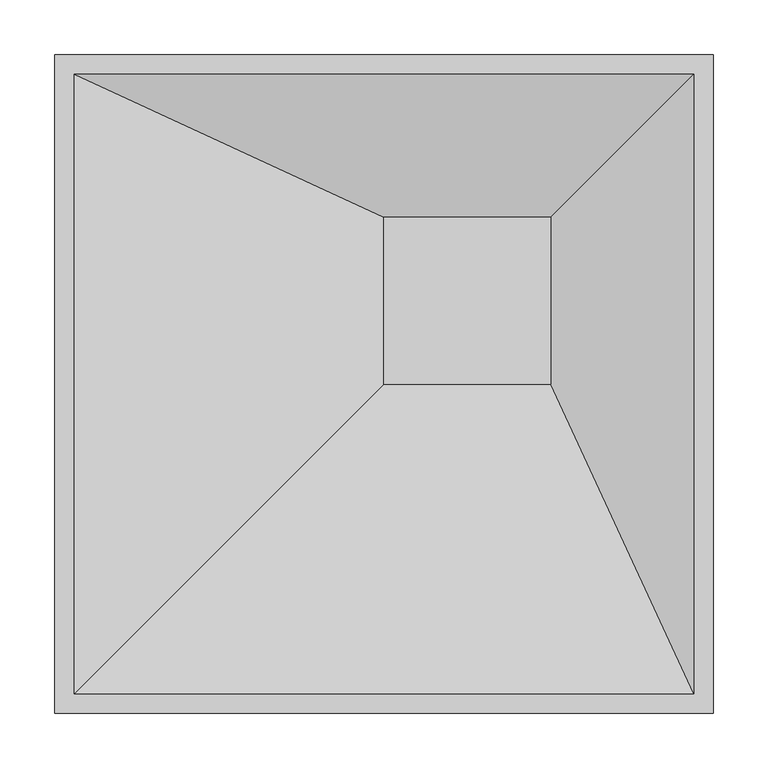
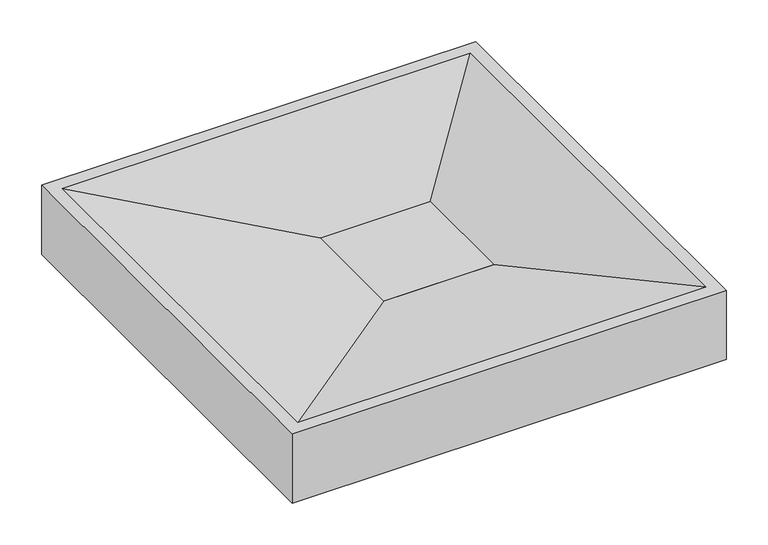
"""IFC4 building model written with IfcOpenShell, lengths in millimetres: proxy geometry, Turf_Pantheon Tile : Pantheon E1."""

from ifc_helpers import new_model, si_unit, origin, origin_with_axes, place, context, project, spatial, polyline, outline, extrude, faceted_brep, source, transform, mapped, element, save


def specialty_equipment_06b2a179(model_context):
    return source(origin(), model_context, "Body", "SolidModel", [
        extrude(outline(polyline([(196.05625, -342.9), (43.65625, -342.9), (43.65625, -190.5), (196.05625, -190.5), (196.05625, -342.9)])), origin_with_axes(), (0.0, 0.0, 1.0), 9.0289063),
        faceted_brep([(196.05625, -342.9, 9.0289062), (326.5289063, -625.7726563, 101.6), (326.5289063, -60.0273438, 101.6), (196.05625, -190.5, 9.0289062), (-239.2164062, -60.0273438, 101.6), (43.65625, -190.5, 9.0289062), (-239.2164062, -625.7726563, 101.6), (43.65625, -342.9, 9.0289062), (344.4875, -42.06875, 101.6), (-257.175, -42.06875, 101.6), (-257.175, -643.73125, 101.6), (344.4875, -643.73125, 101.6), (344.4875, -42.06875, 0.0), (344.4875, -643.73125, 0.0), (-257.175, -643.73125, 0.0), (-257.175, -42.06875, 0.0), (196.05625, -342.9, 0.0), (196.05625, -190.5, 0.0), (43.65625, -190.5, 0.0), (43.65625, -342.9, 0.0)], [[[0, 1, 2, 3]], [[3, 2, 4, 5]], [[5, 4, 6, 7]], [[1, 0, 7, 6]], [[8, 9, 10, 11], [2, 1, 6, 4]], [[12, 13, 14, 15], [16, 17, 18, 19]], [[9, 8, 12, 15]], [[10, 9, 15, 14]], [[11, 10, 14, 13]], [[8, 11, 13, 12]], [[3, 17, 16, 0]], [[17, 3, 5, 18]], [[18, 5, 7, 19]], [[0, 16, 19, 7]]]),
    ])


if __name__ == "__main__":
    model = new_model("IFC4")
    model_context = context("Model", 3, world=origin())
    ifc_project = project(units=[si_unit("LENGTHUNIT", "METRE", prefix="MILLI")], contexts=[model_context])
    site = spatial("IfcSite", under=ifc_project)
    building = spatial("IfcBuilding", under=site)
    placement = place(None, origin())
    specialty_equipment_shape = specialty_equipment_06b2a179(model_context)
    element("IfcBuildingElementProxy", 1, Name="Turf_Pantheon Tile : Pantheon E1", ObjectType="Turf_Pantheon Tile : Pantheon E1", at=placement, inside=building, context=model_context, shape_type="MappedRepresentation", body=[
        mapped(specialty_equipment_shape, transform((0.0, 0.0, 0.0), x_axis=(1.0, 0.0, 0.0), y_axis=(0.0, 1.0, 0.0), z_axis=(0.0, 0.0, 1.0))),
    ])
    save(model, "model.ifc")
